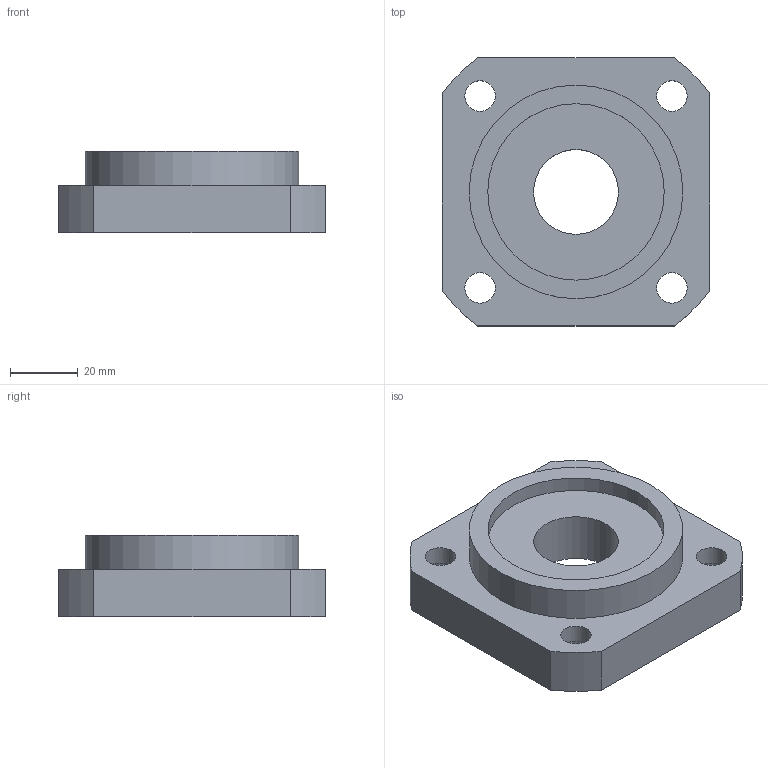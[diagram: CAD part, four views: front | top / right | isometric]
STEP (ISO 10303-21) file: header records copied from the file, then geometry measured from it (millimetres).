
FILE_DESCRIPTION(/* description */ (''),/* implementation_level */ '2;1');
FILE_NAME(/* name */ 'C:\Users\tenki620635\Desktop\官網\圖面\軸承座\3D\setp檔\FF25.stp',/* time_stamp */ '2020-11-23T14:55:09+08:00',/* author */ ('tenki620635'),/* organization */ (''),/* preprocessor_version */ 'ST-DEVELOPER v15.2',/* originating_system */ 'Autodesk Inventor 2014',/* authorisation */ '');
FILE_SCHEMA (('AUTOMOTIVE_DESIGN { 1 0 10303 214 3 1 1 }'));
Length unit declared in the file: millimetre
Products named in the file (1): FF25
Bounding box: 79 x 79 x 24 mm (x, y, z)
Volume: 82661.3 mm3; surface area: 21422.5 mm2
Topology: 1 solids, 1 shells, 29 faces, 60 edges, 40 vertices
Faces by surface type: cylinder 16, plane 13
Full cylindrical faces by diameter (mm): 9 x4, 14 x4, 25 x1, 52 x2, 63 x1
Entity records: 767 total; most frequent: DIRECTION 140, CARTESIAN_POINT 118, ORIENTED_EDGE 96, AXIS2_PLACEMENT_3D 62, EDGE_LOOP 58, EDGE_CURVE 48, VERTEX_POINT 40, FACE_BOUND 34
